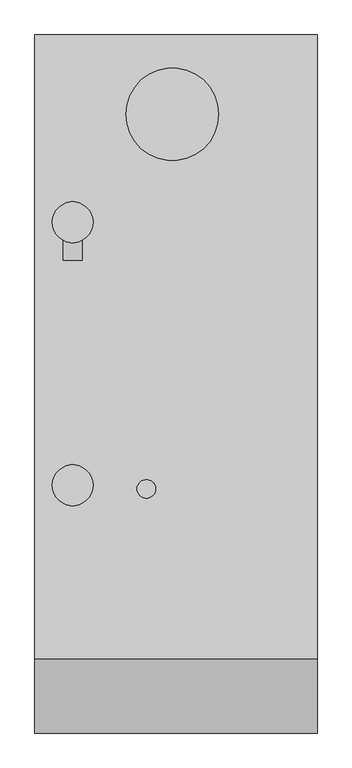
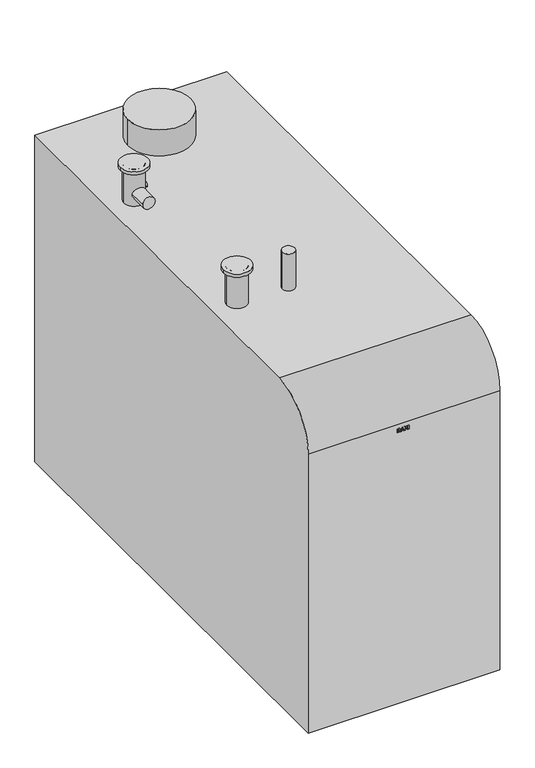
"""IFC4 building model written with IfcOpenShell, lengths in millimetres: proxy geometry, BAXI_ГазовыйКотел_Power_HT-A : BAXI_Газовый котел_Power_HT-A_1.430."""

from ifc_helpers import new_model, si_unit, point, frame, frame_2d, origin, place, context, project, spatial, polyline, circle_curve, trimmed, segment, composite_curve, outline, extrude, source, transform, mapped, element, save


def mechanical_equipment_19ea7d72(model_context):
    return source(origin(), model_context, "Body", "SweptSolid", [
        extrude(outline(polyline([(1153.9146573, -27.1214036), (1138.6107663, -27.1214036), (1138.6107663, -21.8910559), (1138.7132477, -18.1485865), (1139.436311, -16.0666956), (1141.0038971, -14.7344372), (1143.0250583, -14.2467016), (1145.321401, -14.9261154), (1146.7030023, -16.8694667), (1148.0580343, -15.307574), (1150.0393416, -14.7325394), (1151.8403576, -15.2145816), (1153.1270687, -16.4196871), (1153.762833, -18.0593897), (1153.9146573, -20.8396725), (1153.9146573, -27.1214036)]), holes=[polyline([(1151.2425493, -24.2063767), (1151.2425493, -22.2554343), (1147.8910276, -19.5150054), (1147.8416847, -21.9821505), (1147.8416847, -24.2063767), (1151.2425493, -24.2063767)]), polyline([(1145.1695767, -24.2063767), (1145.1695767, -21.5152907), (1141.3739688, -18.8393872), (1141.2828743, -21.1243431), (1141.2828743, -24.2063767), (1145.1695767, -24.2063767)])]), frame((0.0, -1882.0, 0.0), z_axis=(0.0, 1.0, 0.0), x_axis=(0.0, 0.0, 1.0)), (0.0, 0.0, 1.0), 5.0),
        extrude(outline(polyline([(1138.6107663, 1.0571894), (1153.9146573, -4.5830839), (1153.9146573, -7.6878912), (1138.6107663, -13.275026), (1138.6107663, -10.1702188), (1142.011631, -8.9859891), (1142.011631, -3.2052783), (1138.6107663, -2.0058662), (1138.6107663, 1.0571894)]), holes=[polyline([(1144.6837389, -4.1389978), (1144.6837389, -8.0522696), (1150.2708737, -6.1089183), (1144.6837389, -4.1389978)])]), frame((0.0, -1882.0, 0.0), z_axis=(0.0, 1.0, 0.0), x_axis=(0.0, 0.0, 1.0)), (0.0, 0.0, 1.0), 5.0),
        extrude(outline(polyline([(1138.6107663, 1.1786488), (1138.6107663, 4.5871047), (1144.0157119, 8.1018376), (1138.6107663, 11.6165705), (1138.6107663, 15.0250264), (1146.6346814, 9.8060656), (1153.9146573, 14.5391886), (1153.9146573, 11.1307327), (1149.2574464, 8.1018376), (1153.9146573, 5.0729425), (1153.9146573, 1.6644866), (1146.6346814, 6.3976097), (1138.6107663, 1.1786488)])), frame((0.0, -1882.0, 0.0), z_axis=(0.0, 1.0, 0.0), x_axis=(0.0, 0.0, 1.0)), (0.0, 0.0, 1.0), 5.0),
        extrude(outline(polyline([(16.6039993, -1877.0), (19.5190261, -1877.0), (19.5190261, -1882.0), (16.6039993, -1882.0), (16.6039993, -1877.0)])), frame((0.0, 0.0, 1138.6107663), z_axis=(0.0, 0.0, 1.0), x_axis=(1.0, 0.0, 0.0)), (0.0, 0.0, 1.0), 15.303891),
        extrude(outline(composite_curve([segment(trimmed(circle_curve(frame_2d((1182.0, 270.0)), 80.0), [point((1102.0, 270.0))], [point((1262.0, 270.0))], False, "CARTESIAN"), True, "CONTINUOUS"), segment(trimmed(circle_curve(frame_2d((1182.0, 270.0)), 80.0), [point((1262.0, 270.0))], [point((1102.0, 270.0))], False, "CARTESIAN"), True, "CONTINUOUS")], self_intersect=False)), frame((0.0, -142.0, 0.0), z_axis=(0.0, 1.0, 0.0), x_axis=(0.0, 0.0, 1.0)), (0.0, 0.0, 1.0), 142.0),
        extrude(outline(composite_curve([segment(trimmed(circle_curve(frame_2d((773.0, 0.0)), 125.0), [point((648.0, 0.0))], [point((898.0, 0.0))], False, "CARTESIAN"), True, "CONTINUOUS"), segment(trimmed(circle_curve(frame_2d((773.0, 0.0)), 125.0), [point((898.0, 0.0))], [point((648.0, 0.0))], False, "CARTESIAN"), True, "CONTINUOUS")], self_intersect=False)), frame((0.0, -142.0, 0.0), z_axis=(0.0, 1.0, 0.0), x_axis=(0.0, 0.0, 1.0)), (0.0, 0.0, 1.0), 142.0),
        extrude(outline(composite_curve([segment(trimmed(circle_curve(frame_2d((130.0, 275.0)), 16.0), [point((114.0, 275.0))], [point((146.0, 275.0))], False, "CARTESIAN"), True, "CONTINUOUS"), segment(trimmed(circle_curve(frame_2d((130.0, 275.0)), 16.0), [point((146.0, 275.0))], [point((114.0, 275.0))], False, "CARTESIAN"), True, "CONTINUOUS")], self_intersect=False)), frame((0.0, -142.0, 0.0), z_axis=(0.0, 1.0, 0.0), x_axis=(0.0, 0.0, 1.0)), (0.0, 0.0, 1.0), 142.0),
        extrude(outline(composite_curve([segment(trimmed(circle_curve(frame_2d((130.0, -275.0)), 16.0), [point((114.0, -275.0))], [point((146.0, -275.0))], False, "CARTESIAN"), True, "CONTINUOUS"), segment(trimmed(circle_curve(frame_2d((130.0, -275.0)), 16.0), [point((146.0, -275.0))], [point((114.0, -275.0))], False, "CARTESIAN"), True, "CONTINUOUS")], self_intersect=False)), frame((0.0, -142.0, 0.0), z_axis=(0.0, 1.0, 0.0), x_axis=(0.0, 0.0, 1.0)), (0.0, 0.0, 1.0), 142.0),
        extrude(outline(composite_curve([segment(trimmed(circle_curve(frame_2d((-505.0, 1419.5289696)), 10.0), [point((-515.0, 1419.5289696))], [point((-495.0, 1419.5289696))], False, "CARTESIAN"), True, "CONTINUOUS"), segment(trimmed(circle_curve(frame_2d((-505.0, 1419.5289696)), 10.0), [point((-495.0, 1419.5289696))], [point((-515.0, 1419.5289696))], False, "CARTESIAN"), True, "CONTINUOUS")], self_intersect=False)), frame((-279.0, 0.0, 0.0), z_axis=(1.0, 0.0, 0.0), x_axis=(0.0, 1.0, 0.0)), (0.0, 0.0, 1.0), 48.024288),
        extrude(outline(composite_curve([segment(trimmed(circle_curve(frame_2d((1419.5289696, -279.0)), 25.0), [point((1419.5289696, -304.0))], [point((1419.5289696, -254.0))], False, "CARTESIAN"), True, "CONTINUOUS"), segment(trimmed(circle_curve(frame_2d((1419.5289696, -279.0)), 25.0), [point((1419.5289696, -254.0))], [point((1419.5289696, -304.0))], False, "CARTESIAN"), True, "CONTINUOUS")], self_intersect=False)), frame((0.0, -607.5588292, 0.0), z_axis=(0.0, 1.0, 0.0), x_axis=(0.0, 0.0, 1.0)), (0.0, 0.0, 1.0), 102.5588292),
        extrude(outline(composite_curve([segment(trimmed(circle_curve(frame_2d((-279.0, -505.0)), 55.0), [point((-334.0, -505.0))], [point((-224.0, -505.0))], False, "CARTESIAN"), True, "CONTINUOUS"), segment(trimmed(circle_curve(frame_2d((-279.0, -505.0)), 55.0), [point((-224.0, -505.0))], [point((-334.0, -505.0))], False, "CARTESIAN"), True, "CONTINUOUS")], self_intersect=False)), frame((0.0, 0.0, 1513.250973), z_axis=(0.0, 0.0, 1.0), x_axis=(1.0, 0.0, 0.0)), (0.0, 0.0, 1.0), 12.749027),
        extrude(outline(composite_curve([segment(trimmed(circle_curve(frame_2d((-279.0, -1214.0)), 55.0), [point((-334.0, -1214.0))], [point((-224.0, -1214.0))], False, "CARTESIAN"), True, "CONTINUOUS"), segment(trimmed(circle_curve(frame_2d((-279.0, -1214.0)), 55.0), [point((-224.0, -1214.0))], [point((-334.0, -1214.0))], False, "CARTESIAN"), True, "CONTINUOUS")], self_intersect=False)), frame((0.0, 0.0, 1513.250973), z_axis=(0.0, 0.0, 1.0), x_axis=(1.0, 0.0, 0.0)), (0.0, 0.0, 1.0), 12.749027),
        extrude(outline(composite_curve([segment(trimmed(circle_curve(frame_2d((-10.0, -214.0)), 125.0), [point((-135.0, -214.0))], [point((115.0, -214.0))], False, "CARTESIAN"), True, "CONTINUOUS"), segment(trimmed(circle_curve(frame_2d((-10.0, -214.0)), 125.0), [point((115.0, -214.0))], [point((-135.0, -214.0))], False, "CARTESIAN"), True, "CONTINUOUS")], self_intersect=False)), frame((0.0, 0.0, 1371.0), z_axis=(0.0, 0.0, 1.0), x_axis=(1.0, 0.0, 0.0)), (0.0, 0.0, 1.0), 110.0),
        extrude(outline(composite_curve([segment(trimmed(circle_curve(frame_2d((-142.0, 1258.3933983)), 80.0), [point((-222.0, 1258.3933983))], [point((-62.0, 1258.3933983))], False, "CARTESIAN"), True, "CONTINUOUS"), segment(trimmed(circle_curve(frame_2d((-142.0, 1258.3933983)), 80.0), [point((-62.0, 1258.3933983))], [point((-222.0, 1258.3933983))], False, "CARTESIAN"), True, "CONTINUOUS")], self_intersect=False)), frame((259.0, 0.0, 0.0), z_axis=(1.0, 0.0, 0.0), x_axis=(0.0, 1.0, 0.0)), (0.0, 0.0, 1.0), 122.0),
        extrude(outline(composite_curve([segment(trimmed(circle_curve(frame_2d((-80.0, -1224.0)), 25.0), [point((-105.0, -1224.0))], [point((-55.0, -1224.0))], False, "CARTESIAN"), True, "CONTINUOUS"), segment(trimmed(circle_curve(frame_2d((-80.0, -1224.0)), 25.0), [point((-55.0, -1224.0))], [point((-105.0, -1224.0))], False, "CARTESIAN"), True, "CONTINUOUS")], self_intersect=False)), frame((0.0, 0.0, 1371.0), z_axis=(0.0, 0.0, 1.0), x_axis=(1.0, 0.0, 0.0)), (0.0, 0.0, 1.0), 155.0),
        extrude(outline(composite_curve([segment(trimmed(circle_curve(frame_2d((-279.0, -1214.0)), 40.0), [point((-319.0, -1214.0))], [point((-239.0, -1214.0))], False, "CARTESIAN"), True, "CONTINUOUS"), segment(trimmed(circle_curve(frame_2d((-279.0, -1214.0)), 40.0), [point((-239.0, -1214.0))], [point((-319.0, -1214.0))], False, "CARTESIAN"), True, "CONTINUOUS")], self_intersect=False)), frame((0.0, 0.0, 1371.0), z_axis=(0.0, 0.0, 1.0), x_axis=(1.0, 0.0, 0.0)), (0.0, 0.0, 1.0), 155.0),
        extrude(outline(composite_curve([segment(trimmed(circle_curve(frame_2d((-279.0, -505.0)), 40.0), [point((-319.0, -505.0))], [point((-239.0, -505.0))], False, "CARTESIAN"), True, "CONTINUOUS"), segment(trimmed(circle_curve(frame_2d((-279.0, -505.0)), 40.0), [point((-239.0, -505.0))], [point((-319.0, -505.0))], False, "CARTESIAN"), True, "CONTINUOUS")], self_intersect=False)), frame((0.0, 0.0, 1371.0), z_axis=(0.0, 0.0, 1.0), x_axis=(1.0, 0.0, 0.0)), (0.0, 0.0, 1.0), 155.0),
        extrude(outline(composite_curve([segment(polyline([(0.0, 0.0), (-1882.0, 0.0), (-1882.0, 1171.0)]), True, "CONTINUOUS"), segment(trimmed(circle_curve(frame_2d((-1682.0, 1171.0)), 200.0), [point((-1882.0, 1171.0))], [point((-1682.0, 1371.0))], False, "CARTESIAN"), True, "CONTINUOUS"), segment(polyline([(-1682.0, 1371.0), (0.0, 1371.0), (0.0, 0.0)]), True, "CONTINUOUS")], self_intersect=False)), frame((-381.0, 0.0, 0.0), z_axis=(1.0, 0.0, 0.0), x_axis=(0.0, 1.0, 0.0)), (0.0, 0.0, 1.0), 762.0),
    ])


if __name__ == "__main__":
    model = new_model("IFC4")
    model_context = context("Model", 3, world=origin())
    ifc_project = project(units=[si_unit("LENGTHUNIT", "METRE", prefix="MILLI")], contexts=[model_context])
    site = spatial("IfcSite", under=ifc_project)
    building = spatial("IfcBuilding", under=site)
    placement = place(None, origin())
    mechanical_equipment_shape = mechanical_equipment_19ea7d72(model_context)
    element("IfcBuildingElementProxy", 1, Name="BAXI_ГазовыйКотел_Power_HT-A : BAXI_Газовый котел_Power_HT-A_1.430", ObjectType="BAXI_ГазовыйКотел_Power_HT-A : BAXI_Газовый котел_Power_HT-A_1.430", at=placement, inside=building, context=model_context, shape_type="MappedRepresentation", body=[
        mapped(mechanical_equipment_shape, transform((0.0, 0.0, 0.0), x_axis=(1.0, 0.0, 0.0), y_axis=(0.0, 1.0, 0.0), z_axis=(0.0, 0.0, 1.0))),
    ])
    save(model, "model.ifc")
